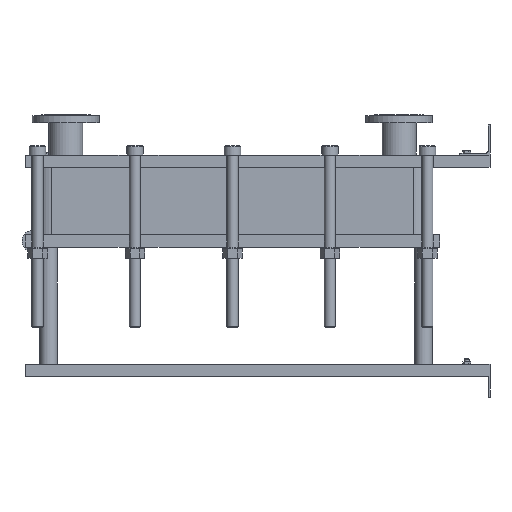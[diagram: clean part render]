
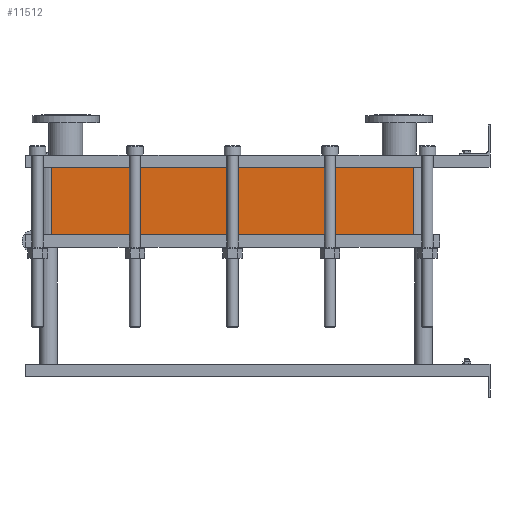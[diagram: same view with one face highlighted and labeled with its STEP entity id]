
A CAD part, left-side view. The second image highlights one B-rep face of the part: STEP entity #11512.
In plain terms, the highlighted planar face has unit normal (-1, 0, 0).
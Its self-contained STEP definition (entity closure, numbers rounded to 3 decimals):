
#1129=LINE('',#23232,#2102);
#1130=LINE('',#23236,#2103);
#1131=LINE('',#23238,#2104);
#1132=LINE('',#23239,#2105);
#2102=VECTOR('',#15887,10.);
#2103=VECTOR('',#15892,10.);
#2104=VECTOR('',#15893,10.);
#2105=VECTOR('',#15894,10.);
#3267=FACE_OUTER_BOUND('',#4093,.T.);
#4093=EDGE_LOOP('',(#10103,#10104,#10105,#10106));
#5642=VERTEX_POINT('',#23229);
#5643=VERTEX_POINT('',#23231);
#5644=VERTEX_POINT('',#23235);
#5645=VERTEX_POINT('',#23237);
#7159=EDGE_CURVE('',#5643,#5642,#1129,.T.);
#7161=EDGE_CURVE('',#5642,#5644,#1130,.T.);
#7162=EDGE_CURVE('',#5645,#5644,#1131,.T.);
#7163=EDGE_CURVE('',#5645,#5643,#1132,.T.);
#10103=ORIENTED_EDGE('',*,*,#7161,.T.);
#10104=ORIENTED_EDGE('',*,*,#7162,.F.);
#10105=ORIENTED_EDGE('',*,*,#7163,.T.);
#10106=ORIENTED_EDGE('',*,*,#7159,.T.);
#10857=PLANE('',#12751);
#11512=ADVANCED_FACE('',(#3267),#10857,.T.);
#12751=AXIS2_PLACEMENT_3D('',#23234,#15890,#15891);
#15887=DIRECTION('',(0.,0.,-1.));
#15890=DIRECTION('center_axis',(-1.,0.,0.));
#15891=DIRECTION('ref_axis',(0.,1.,0.));
#15892=DIRECTION('',(0.,-1.,0.));
#15893=DIRECTION('',(0.,0.,-1.));
#15894=DIRECTION('',(0.,1.,0.));
#23229=CARTESIAN_POINT('',(-200.,1414.,-217.35));
#23231=CARTESIAN_POINT('',(-200.,1414.,0.));
#23232=CARTESIAN_POINT('',(-200.,1414.,0.));
#23234=CARTESIAN_POINT('Origin',(-200.,248.,0.));
#23235=CARTESIAN_POINT('',(-200.,248.,-217.35));
#23236=CARTESIAN_POINT('',(-200.,539.5,-217.35));
#23237=CARTESIAN_POINT('',(-200.,248.,0.));
#23238=CARTESIAN_POINT('',(-200.,248.,0.));
#23239=CARTESIAN_POINT('',(-200.,248.,0.));
